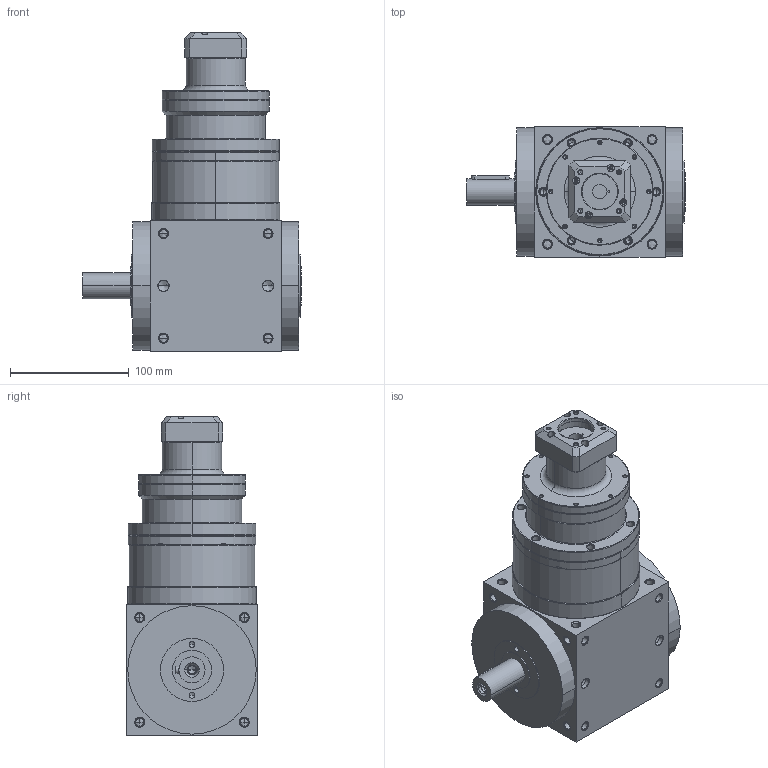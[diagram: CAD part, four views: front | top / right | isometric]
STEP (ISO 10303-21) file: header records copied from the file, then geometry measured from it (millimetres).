
FILE_DESCRIPTION((''),'2;1');
FILE_NAME('ATB110FL13-P0405100202_ASM','2014-07-30T',('d01707'),(''),'PRO/ENGINEER BY PARAMETRIC TECHNOLOGY CORPORATION, 2008410','PRO/ENGINEER BY PARAMETRIC TECHNOLOGY CORPORATION, 2008410','');
FILE_SCHEMA(('CONFIG_CONTROL_DESIGN'));
Length unit declared in the file: millimetre
Products named in the file (6): ATBFL1-HOUSING-3-5; P1820500001; P0226500002; P0227500001; P0405100202; ATB110FL13-P0405100202_ASM
Assembly tree (5 placements, depth 2):
  ATB110FL13-P0405100202_ASM
    ATBFL1-HOUSING-3-5
    P1820500001
    P0226500002
    P0227500001
    P0405100202
Bounding box: 184 x 110 x 268 mm (x, y, z)
Volume: 2221062.2 mm3; surface area: 251357.4 mm2
Topology: 5 solids, 52 shells, 947 faces, 2303 edges, 1356 vertices
Faces by surface type: cylinder 414, cone 350, plane 121, torus 58, bspline 4
Entity records: 28121 total; most frequent: CARTESIAN_POINT 5724, DIRECTION 5123, ORIENTED_EDGE 4194, EDGE_CURVE 2191, AXIS2_PLACEMENT_3D 2154, VERTEX_POINT 1356, CIRCLE 1190, EDGE_LOOP 1139
